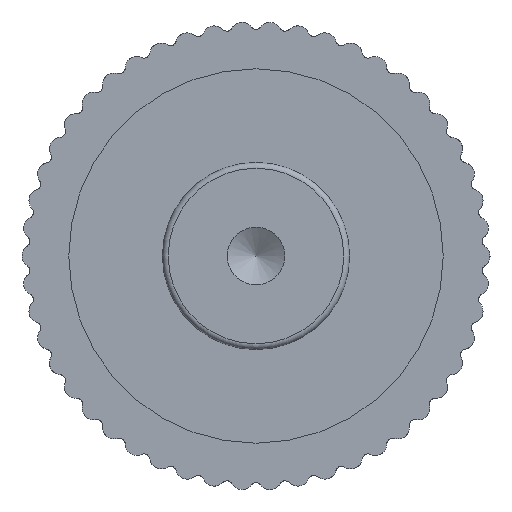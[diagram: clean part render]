
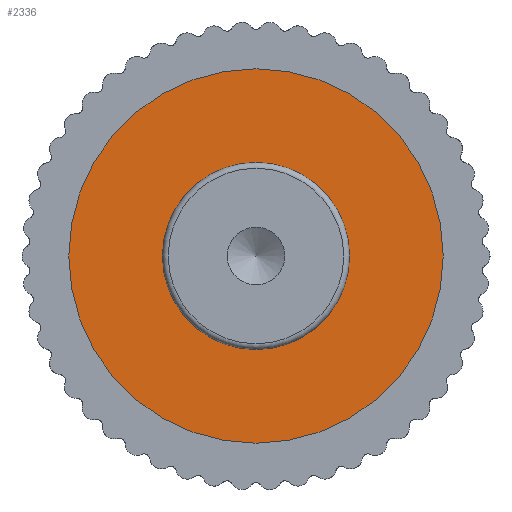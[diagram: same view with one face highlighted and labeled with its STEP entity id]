
A CAD part, front view. The second image highlights one B-rep face of the part: STEP entity #2336.
In plain terms, the highlighted planar face has unit normal (0, -1, 0).
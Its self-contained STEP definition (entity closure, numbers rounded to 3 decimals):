
#370=PLANE('',#2570);
#388=FACE_BOUND('',#739,.T.);
#608=FACE_OUTER_BOUND('',#738,.T.);
#738=EDGE_LOOP('',(#2114));
#739=EDGE_LOOP('',(#2115));
#746=CIRCLE('',#2349,8.);
#856=CIRCLE('',#2569,16.);
#861=VERTEX_POINT('',#3152);
#1121=VERTEX_POINT('',#5432);
#1126=EDGE_CURVE('',#861,#861,#746,.T.);
#1486=EDGE_CURVE('',#1121,#1121,#856,.T.);
#2114=ORIENTED_EDGE('',*,*,#1486,.F.);
#2115=ORIENTED_EDGE('',*,*,#1126,.T.);
#2336=ADVANCED_FACE('',(#608,#388),#370,.F.);
#2349=AXIS2_PLACEMENT_3D('',#3153,#2592,#2593);
#2569=AXIS2_PLACEMENT_3D('',#5433,#3132,#3133);
#2570=AXIS2_PLACEMENT_3D('',#5434,#3134,#3135);
#2592=DIRECTION('center_axis',(0.,1.,0.));
#2593=DIRECTION('ref_axis',(1.,0.,0.));
#3132=DIRECTION('center_axis',(0.,1.,0.));
#3133=DIRECTION('ref_axis',(1.,0.,0.));
#3134=DIRECTION('center_axis',(0.,1.,0.));
#3135=DIRECTION('ref_axis',(0.,0.,1.));
#3152=CARTESIAN_POINT('',(-8.,19.,0.));
#3153=CARTESIAN_POINT('Origin',(0.,19.,0.));
#5432=CARTESIAN_POINT('',(-16.,19.,0.));
#5433=CARTESIAN_POINT('Origin',(0.,19.,0.));
#5434=CARTESIAN_POINT('Origin',(-8.,19.,0.));
